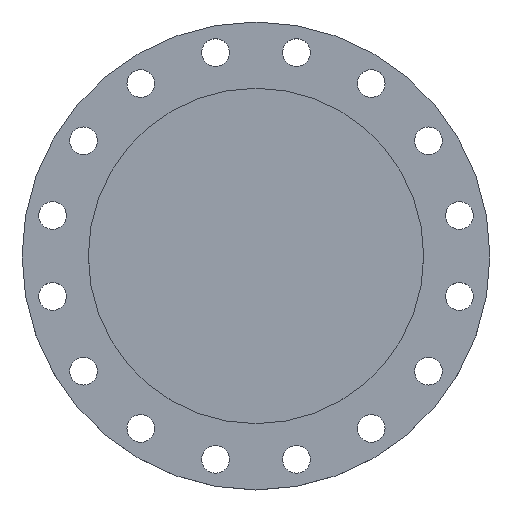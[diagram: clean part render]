
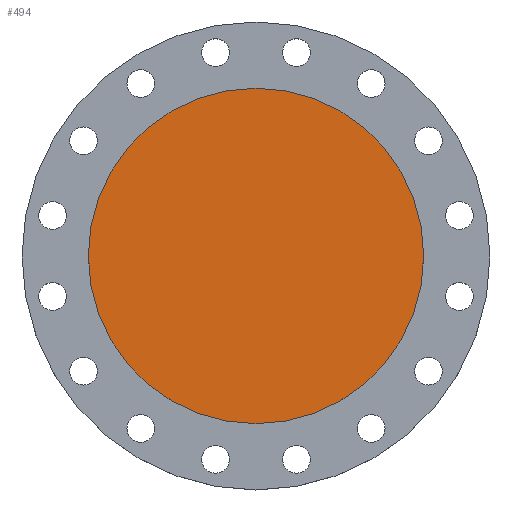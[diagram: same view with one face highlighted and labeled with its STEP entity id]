
A CAD part, top view. The second image highlights one B-rep face of the part: STEP entity #494.
In plain terms, the highlighted planar face has unit normal (0, 0, 1).
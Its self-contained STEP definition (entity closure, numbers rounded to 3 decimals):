
#22 = CARTESIAN_POINT ( 'NONE',  ( -236.5, 0., 0. ) ) ;
#208 = CIRCLE ( 'NONE', #211, 236.5 ) ;
#211 = AXIS2_PLACEMENT_3D ( 'NONE', #652, #646, #645 ) ;
#290 = CIRCLE ( 'NONE', #305, 236.5 ) ;
#292 = DIRECTION ( 'NONE',  ( -1., 0., 0. ) ) ;
#293 = DIRECTION ( 'NONE',  ( 0., 0., -1. ) ) ;
#294 = CARTESIAN_POINT ( 'NONE',  ( 0., 0., 0. ) ) ;
#305 = AXIS2_PLACEMENT_3D ( 'NONE', #294, #293, #292 ) ;
#367 = CARTESIAN_POINT ( 'NONE',  ( 236.5, 0., 0. ) ) ;
#494 = ADVANCED_FACE ( 'NONE', ( #501 ), #500, .T. ) ;
#497 = DIRECTION ( 'NONE',  ( 1., 0., 0. ) ) ;
#498 = DIRECTION ( 'NONE',  ( 0., 0., 1. ) ) ;
#499 = CARTESIAN_POINT ( 'NONE',  ( 0., 0., 0. ) ) ;
#500 = PLANE ( 'NONE',  #1319 ) ;
#501 = FACE_OUTER_BOUND ( 'NONE', #947, .T. ) ;
#645 = DIRECTION ( 'NONE',  ( -1., 0., 0. ) ) ;
#646 = DIRECTION ( 'NONE',  ( 0., 0., -1. ) ) ;
#652 = CARTESIAN_POINT ( 'NONE',  ( 0., 0., 0. ) ) ;
#671 = VERTEX_POINT ( 'NONE', #367 ) ;
#787 = EDGE_CURVE ( 'NONE', #1163, #671, #290, .T. ) ;
#947 = EDGE_LOOP ( 'NONE', ( #979, #980 ) ) ;
#979 = ORIENTED_EDGE ( 'NONE', *, *, #787, .F. ) ;
#980 = ORIENTED_EDGE ( 'NONE', *, *, #1287, .F. ) ;
#1163 = VERTEX_POINT ( 'NONE', #22 ) ;
#1287 = EDGE_CURVE ( 'NONE', #671, #1163, #208, .T. ) ;
#1319 = AXIS2_PLACEMENT_3D ( 'NONE', #499, #498, #497 ) ;
